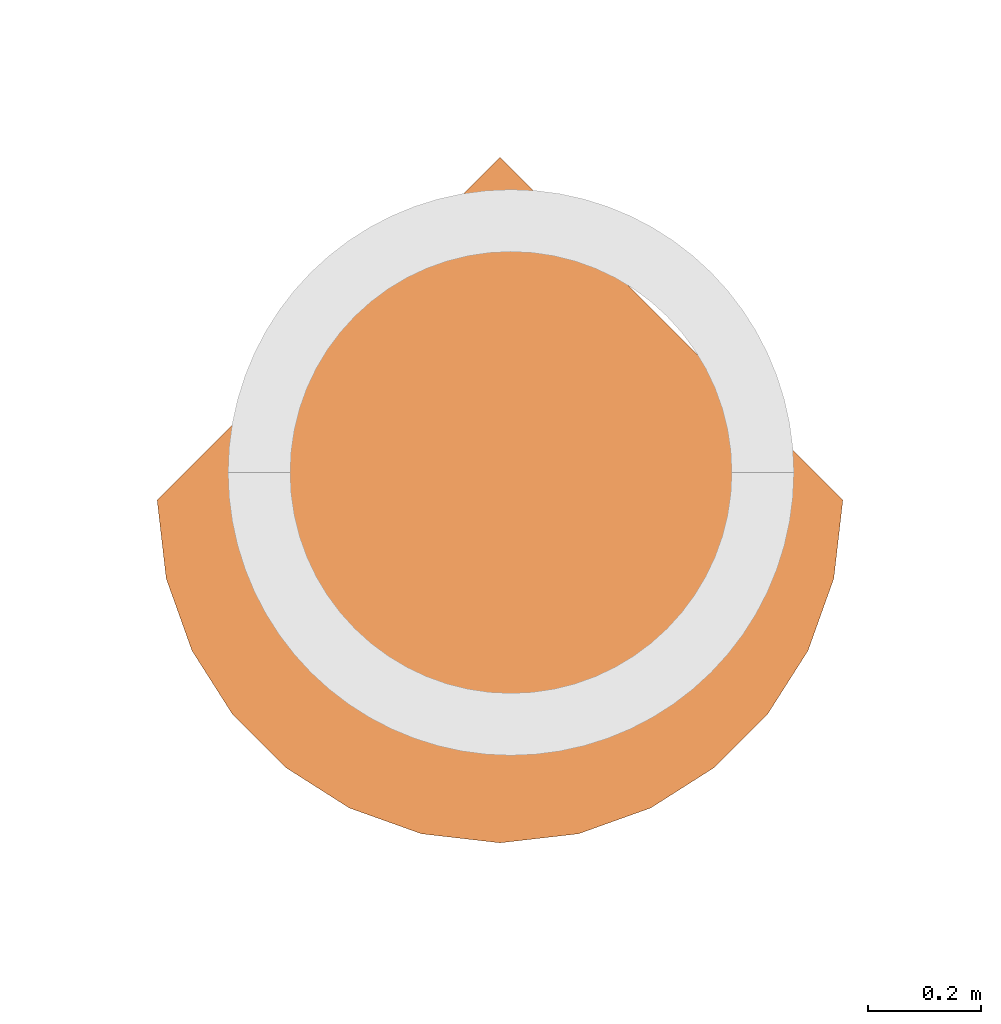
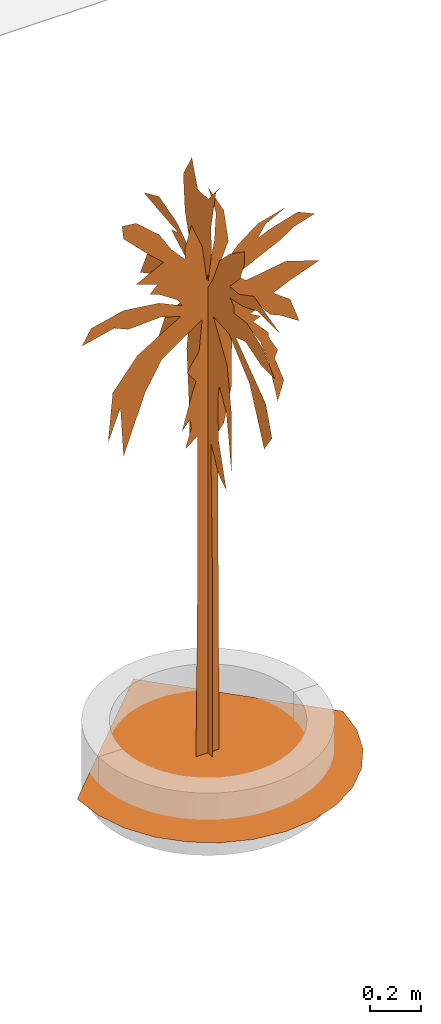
# One storey, part 4 of 4: 1 proxy.
"""IFC2X3 building model written with IfcOpenShell, lengths in millimetres."""

import ifcopenshell
import ifcopenshell.guid

model = None  # the IFC model being written
_history = None  # IfcOwnerHistory: only IFC2X3 demands one
_inside = {}  # id of a spatial element -> (the spatial element, [elements in it])
_under = {}  # id of a project, library or spatial element -> (it, [spatial elements below it])
_declared = {}  # id of a project -> (the project, [libraries it declares])
_typed = {}  # id of a type object -> (the type object, [elements of that type])
_made_of = {}  # id of a material, layer set ... -> (it, [elements and type objects made of it])


def new_model(schema):
    """Start an empty IFC model of exactly this schema.

    Asked for "IFC4X3", IfcOpenShell would pick the latest addendum, in which some entities
    have other attributes; the version numbers below select the first issue.
    IFC2X3 requires an IfcOwnerHistory on every rooted entity: one is made here for all.
    """
    global model, _history
    if schema == "IFC4X3":
        model = ifcopenshell.file(schema_version=(4, 3, 0, 0))
    else:
        model = ifcopenshell.file(schema=schema)
    _inside.clear()
    _under.clear()
    _declared.clear()
    _typed.clear()
    _made_of.clear()
    _history = None
    if model.schema == "IFC2X3":
        org = make("IfcOrganization", Name="unknown")
        user = make(
            "IfcPersonAndOrganization",
            ThePerson=make("IfcPerson", FamilyName="unknown"),
            TheOrganization=org,
        )
        app = make(
            "IfcApplication",
            ApplicationDeveloper=org,
            Version="unknown",
            ApplicationFullName="unknown",
            ApplicationIdentifier="unknown",
        )
        _history = make(
            "IfcOwnerHistory",
            OwningUser=user,
            OwningApplication=app,
            ChangeAction="ADDED",
            CreationDate=0,
        )
    return model


def make(cls, **values):
    """One entity of the class cls with the attributes given. An attribute that is None is left unset."""
    return model.create_entity(
        cls, **{name: value for name, value in values.items() if value is not None}
    )


def entity(cls, *values):
    """Any entity or typed value of the class cls, its attributes in the order of the schema. None: left unset."""
    e = model.create_entity(cls)
    for i, value in enumerate(values):
        if value is not None:
            e[i] = value
    return e


def rooted(cls, **values):
    """An entity with a GlobalId (a new one), such as an element, a storey or a relation."""
    return make(cls, GlobalId=ifcopenshell.guid.new(), OwnerHistory=_history, **values)


def si_unit(unit_type, name, prefix=None):
    """IfcSIUnit, for example si_unit("LENGTHUNIT", "METRE", prefix="MILLI")."""
    return make("IfcSIUnit", UnitType=unit_type, Prefix=prefix, Name=name)


def converted_unit(unit_type, name, factor, base, dimensions=None, offset=None):
    """IfcConversionBasedUnit, such as the inch: factor (a typed value) times the base unit."""
    return make(
        "IfcConversionBasedUnit"
        if offset is None
        else "IfcConversionBasedUnitWithOffset",
        ConversionOffset=offset,
        Dimensions=None
        if dimensions is None
        else entity("IfcDimensionalExponents", *dimensions),
        UnitType=unit_type,
        Name=name,
        ConversionFactor=make(
            "IfcMeasureWithUnit", ValueComponent=factor, UnitComponent=base
        ),
    )


def derived_unit(unit_type, elements):
    """IfcDerivedUnit: a product of units, each with its exponent."""
    return make(
        "IfcDerivedUnit",
        Elements=[
            make("IfcDerivedUnitElement", Unit=unit, Exponent=power)
            for unit, power in elements
        ],
        UnitType=unit_type,
    )


def assignment(units):
    """IfcUnitAssignment: the units of a project."""
    return None if units is None else make("IfcUnitAssignment", Units=units)


def point(xyz):
    """IfcCartesianPoint."""
    return None if xyz is None else make("IfcCartesianPoint", Coordinates=xyz)


def direction(xyz):
    """IfcDirection."""
    return None if xyz is None else make("IfcDirection", DirectionRatios=xyz)


def frame(location, z_axis=None, x_axis=None):
    """IfcAxis2Placement3D, a coordinate frame: its origin and axes. An axis left out is left unset."""
    return make(
        "IfcAxis2Placement3D",
        Location=point(location),
        Axis=direction(z_axis),
        RefDirection=direction(x_axis),
    )


def origin():
    """The frame at (0, 0, 0) with its axes left unset."""
    return frame((0.0, 0.0, 0.0))


def place(relative_to, where):
    """IfcLocalPlacement: puts the frame where relative to a parent placement (None: the world)."""
    return make(
        "IfcLocalPlacement", PlacementRelTo=relative_to, RelativePlacement=where
    )


def context(
    kind, dimensions, precision=None, world=None, true_north=None, identifier=None
):
    """IfcGeometricRepresentationContext, for example the 3D "Model" context."""
    return make(
        "IfcGeometricRepresentationContext",
        ContextIdentifier=identifier,
        ContextType=kind,
        CoordinateSpaceDimension=dimensions,
        Precision=precision,
        WorldCoordinateSystem=world,
        TrueNorth=true_north,
    )


def subcontext(parent, identifier, kind, view, scale=None):
    """IfcGeometricRepresentationSubContext, for example "Body" below "Model"."""
    return make(
        "IfcGeometricRepresentationSubContext",
        ContextIdentifier=identifier,
        ContextType=kind,
        ParentContext=parent,
        TargetScale=scale,
        TargetView=view,
    )


def project(units=None, contexts=None):
    """IfcProject with its units and contexts."""
    return rooted(
        "IfcProject",
        Name="project",
        RepresentationContexts=contexts,
        UnitsInContext=assignment(units),
    )


def spatial(cls, under=None, at=None, **own):
    """A site, building, storey or space (cls), placed at a placement, below another one or the project."""
    s = rooted(cls, ObjectPlacement=at, **own)
    if under is not None:
        _under.setdefault(under.id(), (under, []))[1].append(s)
    return s


def faces_of(points, faces, orient=None, outer=None):
    """IfcFace entities. A face is a list of loops; a loop is a list of indices into points, from 0.

    orient and outer hold one flag for each loop. By default every Orientation is true, the
    first loop of a face is its IfcFaceOuterBound and the others are IfcFaceBound.
    """
    made = []
    for i, loops in enumerate(faces):
        bounds = []
        for j, loop in enumerate(loops):
            is_outer = j == 0 if outer is None else outer[i][j]
            bounds.append(
                make(
                    "IfcFaceOuterBound" if is_outer else "IfcFaceBound",
                    Bound=make("IfcPolyLoop", Polygon=[points[k] for k in loop]),
                    Orientation=True if orient is None else orient[i][j],
                )
            )
        made.append(make("IfcFace", Bounds=bounds))
    return made


def face_set(faces, orient=None, outer=None):
    """The faces of one IfcConnectedFaceSet. surface_model builds it on its shared points."""
    return ("IfcConnectedFaceSet", faces, orient, outer)


def surface_model(cls, points, shells):
    """IfcFaceBasedSurfaceModel or IfcShellBasedSurfaceModel (cls): surfaces that need not close."""
    shared = [point(p) for p in points]
    made = [make(c, CfsFaces=faces_of(shared, fs, o, b)) for c, fs, o, b in shells]
    if cls == "IfcFaceBasedSurfaceModel":
        return make(cls, FbsmFaces=made)
    return make(cls, SbsmBoundary=made)


def shape(context_of_items, identifier, shape_type, items):
    """IfcShapeRepresentation: the items that make up one representation, for example the "Body"."""
    return make(
        "IfcShapeRepresentation",
        ContextOfItems=context_of_items,
        RepresentationIdentifier=identifier,
        RepresentationType=shape_type,
        Items=items,
    )


def source(mapping_origin, context_of_items, identifier, shape_type, items):
    """IfcRepresentationMap: a shape defined once, which mapped items show again and again."""
    return make(
        "IfcRepresentationMap",
        MappingOrigin=mapping_origin,
        MappedRepresentation=shape(context_of_items, identifier, shape_type, items),
    )


def transform(
    local_origin,
    x_axis=None,
    y_axis=None,
    z_axis=None,
    scale=None,
    scale2=None,
    scale3=None,
    uniform=True,
):
    """IfcCartesianTransformationOperator3D, or its non-uniform kind. x_axis, y_axis, z_axis: its Axis1, 2, 3."""
    if uniform:
        return make(
            "IfcCartesianTransformationOperator3D",
            Axis1=direction(x_axis),
            Axis2=direction(y_axis),
            LocalOrigin=point(local_origin),
            Scale=scale,
            Axis3=direction(z_axis),
        )
    return make(
        "IfcCartesianTransformationOperator3DnonUniform",
        Axis1=direction(x_axis),
        Axis2=direction(y_axis),
        LocalOrigin=point(local_origin),
        Scale=scale,
        Axis3=direction(z_axis),
        Scale2=scale2,
        Scale3=scale3,
    )


def mapped(mapping_source, mapping_target):
    """IfcMappedItem: shows the shape of a source again, moved by a transform."""
    return make(
        "IfcMappedItem", MappingSource=mapping_source, MappingTarget=mapping_target
    )


def made_of(thing, what):
    """Note that an element or type object is made of a material, layer set ...; save() writes the relation."""
    if what is not None:
        _made_of.setdefault(what.id(), (what, []))[1].append(thing)
    return thing


def type_object(cls, material=None, **own):
    """A type object (cls), such as IfcWallType, which elements share."""
    return made_of(rooted(cls, **own), material)


def type_shapes(of_type, sources):
    """Give a type object the sources (RepresentationMaps) that its elements show as mapped items."""
    of_type.RepresentationMaps = sources


def element(
    cls,
    number,
    at=None,
    inside=None,
    cuts=None,
    type_object=None,
    material=None,
    context=None,
    identifier="Body",
    shape_type=None,
    held_by="IfcProductDefinitionShape",
    body=None,
    shapes=None,
    **own,
):
    """One element of the class cls, such as IfcWall. Its Tag is "e" and its number.

    at: its placement. inside: the storey or other place that contains it. cuts: it is an
    opening in that element (IfcRelVoidsElement). A single representation is given by context,
    identifier, shape_type and body (its items); several are given by shapes. held_by: the class
    of the entity that holds the representations. save() writes the other relations.
    """
    e = rooted(cls, Tag="e%d" % number, ObjectPlacement=at, **own)
    if body is not None:
        shapes = [shape(context, identifier, shape_type, body)]
    if shapes is not None:
        e.Representation = make(held_by, Representations=shapes)
    if inside is not None:
        _inside.setdefault(inside.id(), (inside, []))[1].append(e)
    if cuts is not None:
        rooted(
            "IfcRelVoidsElement", RelatingBuildingElement=cuts, RelatedOpeningElement=e
        )
    if type_object is not None:
        _typed.setdefault(type_object.id(), (type_object, []))[1].append(e)
    return made_of(e, material)


def aggregate(whole, parts):
    """IfcRelAggregates: a whole, such as a stair, and the parts it consists of."""
    return rooted("IfcRelAggregates", RelatingObject=whole, RelatedObjects=parts)


def save(model, path):
    """Write the relations noted so far, then the file.

    IfcRelAggregates (storeys below a building ...), IfcRelContainedInSpatialStructure (elements
    in a storey), IfcRelDefinesByType, IfcRelAssociatesMaterial and IfcRelDeclares: one each for
    every whole, place, type object, material and project.
    """
    for whole, parts in _under.values():
        aggregate(whole, parts)
    for where, things in _inside.values():
        rooted(
            "IfcRelContainedInSpatialStructure",
            RelatedElements=things,
            RelatingStructure=where,
        )
    for kind, things in _typed.values():
        rooted("IfcRelDefinesByType", RelatedObjects=things, RelatingType=kind)
    for what, things in _made_of.values():
        rooted("IfcRelAssociatesMaterial", RelatedObjects=things, RelatingMaterial=what)
    for by, libraries in _declared.values():
        rooted("IfcRelDeclares", RelatingContext=by, RelatedDefinitions=libraries)
    model.write(path)


model = new_model("IFC2X3")

# Units and contexts
model_context = context("Model", 3, precision=0.01, world=origin(), true_north=direction((6.12303176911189e-17, 1.0)))
body_context = subcontext(model_context, "Body", "Model", "MODEL_VIEW")
ifc_project = project(units=[si_unit("LENGTHUNIT", "METRE", prefix="MILLI"), si_unit("AREAUNIT", "SQUARE_METRE"), si_unit("VOLUMEUNIT", "CUBIC_METRE"), converted_unit("PLANEANGLEUNIT", "DEGREE", entity("IfcRatioMeasure", 0.0174532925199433), si_unit("PLANEANGLEUNIT", "RADIAN"), dimensions=[0, 0, 0, 0, 0, 0, 0]), si_unit("MASSUNIT", "GRAM", prefix="KILO"), derived_unit("MASSDENSITYUNIT", [(si_unit("MASSUNIT", "GRAM", prefix="KILO"), 1), (si_unit("LENGTHUNIT", "METRE"), -3)]), si_unit("TIMEUNIT", "SECOND"), si_unit("FREQUENCYUNIT", "HERTZ"), si_unit("THERMODYNAMICTEMPERATUREUNIT", "DEGREE_CELSIUS"), derived_unit("THERMALTRANSMITTANCEUNIT", [(si_unit("MASSUNIT", "GRAM", prefix="KILO"), 1), (si_unit("THERMODYNAMICTEMPERATUREUNIT", "KELVIN"), -1), (si_unit("TIMEUNIT", "SECOND"), -3)]), derived_unit("VOLUMETRICFLOWRATEUNIT", [(si_unit("LENGTHUNIT", "METRE"), 3), (si_unit("TIMEUNIT", "SECOND"), -1)]), si_unit("ELECTRICCURRENTUNIT", "AMPERE"), si_unit("ELECTRICVOLTAGEUNIT", "VOLT"), si_unit("POWERUNIT", "WATT"), si_unit("FORCEUNIT", "NEWTON", prefix="KILO"), si_unit("ILLUMINANCEUNIT", "LUX"), si_unit("LUMINOUSFLUXUNIT", "LUMEN"), si_unit("LUMINOUSINTENSITYUNIT", "CANDELA"), derived_unit("USERDEFINED", [(si_unit("MASSUNIT", "GRAM", prefix="KILO"), -1), (si_unit("LENGTHUNIT", "METRE"), -2), (si_unit("TIMEUNIT", "SECOND"), 3), (si_unit("LUMINOUSFLUXUNIT", "LUMEN"), 1)]), derived_unit("LINEARVELOCITYUNIT", [(si_unit("LENGTHUNIT", "METRE"), 1), (si_unit("TIMEUNIT", "SECOND"), -1)]), si_unit("PRESSUREUNIT", "PASCAL"), derived_unit("USERDEFINED", [(si_unit("LENGTHUNIT", "METRE"), -2), (si_unit("MASSUNIT", "GRAM", prefix="KILO"), 1), (si_unit("TIMEUNIT", "SECOND"), -2)])], contexts=[model_context])

# Site, building, storey, space
site_placement = place(None, origin())
site = spatial("IfcSite", under=ifc_project, at=site_placement, Name="Surface", CompositionType="ELEMENT")
building_placement = place(site_placement, origin())
building = spatial("IfcBuilding", under=site, at=building_placement, CompositionType="ELEMENT")
storey_placement = place(building_placement, origin())
storey = spatial("IfcBuildingStorey", under=building, at=storey_placement, Name="N.G.L", CompositionType="ELEMENT", Elevation=0.0)
space_placement = place(storey_placement, origin())
space = spatial("IfcSpace", under=storey, at=space_placement, Name="1", CompositionType="ELEMENT", InteriorOrExteriorSpace="INTERNAL")

# Proxy
building_element_proxy_type = type_object("IfcBuildingElementProxyType", Name="Australian Tree Fern - 1.8 Meters", PredefinedType="NOTDEFINED")
shared_shape = source(origin(), body_context, "Body", "SurfaceModel", [
    surface_model("IfcFaceBasedSurfaceModel", [(226.266566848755, -0.00688125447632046, 2470.31607513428), (352.807789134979, -0.00689307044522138, 2505.46538314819), (261.416801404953, -0.00688027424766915, 2456.2602470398), (36.4542996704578, -0.00689433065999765, 2589.82941970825), (1.3038739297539, -0.00691667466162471, 2723.39859237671), (71.6047227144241, -0.0068958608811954, 2589.82941970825), (-399.410504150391, -0.00673447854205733, 1802.46091003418), (-455.651257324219, -0.00670562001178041, 1654.8263168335), (-434.561701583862, -0.00674803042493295, 1886.81549949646), (-286.929052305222, -0.00674568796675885, 1837.6102180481), (-385.350788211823, -0.00669235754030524, 1563.43451156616), (-83.0570487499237, -0.00671813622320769, 1633.73298225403), (-118.207746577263, -0.0067090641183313, 1591.55576019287), (-76.0270908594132, -0.0067385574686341, 1746.2182674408), (345.777949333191, -0.00674442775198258, 1675.91965141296), (317.657572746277, -0.00672685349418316, 1584.52770080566), (275.477462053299, -0.00676147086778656, 1788.39548950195), (303.597820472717, -0.00676395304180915, 1795.43285064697), (-47.9066279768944, -0.0067033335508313, 1542.34117698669), (-104.147095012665, -0.00669333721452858, 1500.16380958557), (-76.0271816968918, -0.00671090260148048, 1591.55576019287), (373.898325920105, -0.0068135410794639, 2055.54328193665), (416.078418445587, -0.00679401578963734, 1936.03008270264), (331.718233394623, -0.00680038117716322, 1992.27272529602), (352.807789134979, -0.00684656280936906, 2245.35509719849), (507.470296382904, -0.00684451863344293, 2196.14051399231), (373.898325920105, -0.00682988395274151, 2146.93523254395), (-104.147095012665, -0.006866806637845, 2470.31607513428), (-76.0270908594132, -0.00688564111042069, 2568.73623046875), (-26.8164908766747, -0.00686642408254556, 2449.22288589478), (409.048542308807, -0.00688798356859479, 2463.288306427), (486.37979593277, -0.00688508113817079, 2428.13885307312), (394.988826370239, -0.00687605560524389, 2400.01760444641), (-427.530880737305, -0.00680364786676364, 2196.14051399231), (-575.162603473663, -0.0067909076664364, 2160.99120597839), (-532.982510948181, -0.00680532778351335, 2231.28982200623), (-385.350788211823, -0.00681806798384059, 2266.44843177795), (-230.689243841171, -0.0068373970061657, 2336.74704780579), (-329.110071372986, -0.00683937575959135, 2371.8963558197), (-202.568867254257, -0.00685622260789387, 2435.16691246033), (191.116332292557, -0.00680429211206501, 2048.5153678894), (240.326282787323, -0.00680141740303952, 2020.39397392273), (205.176066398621, -0.00679736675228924, 2006.32869873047), (289.537177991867, -0.0068764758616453, 2428.13885307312), (331.718233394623, -0.00686575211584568, 2357.83093528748), (-223.658441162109, -0.0068289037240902, 2287.53246459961), (-265.839478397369, -0.00682957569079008, 2301.59773979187), (-104.147095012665, -0.00685675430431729, 2414.07357788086), (-5.7262657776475, -0.00683717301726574, 2280.5044052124), (-385.350788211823, -0.00687965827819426, 2610.92260894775), (-392.380664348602, -0.0068906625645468, 2674.19345626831), (-329.110071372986, -0.00689217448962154, 2667.15609512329), (226.266566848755, -0.00686868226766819, 2400.01760444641), (134.875606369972, -0.00686468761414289, 2400.01760444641), (-364.260287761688, -0.00680138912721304, 2168.01912002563), (-223.658441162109, -0.00682136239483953, 2245.35509719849), (-216.628583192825, -0.00680909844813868, 2175.05648117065), (-118.207746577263, -0.00681717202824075, 2196.14051399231), (-125.237604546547, -0.00680806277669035, 2146.93523254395), (127.845748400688, -0.00683923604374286, 2259.41107063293), (29.42416010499, -0.00683870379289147, 2280.5044052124), (-272.869336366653, -0.00686446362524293, 2498.43761444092), (-223.658441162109, -0.00688044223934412, 2575.76399917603), (-167.417706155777, -0.00686655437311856, 2484.37219390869), (296.567035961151, -0.00682021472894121, 2111.78592453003), (282.507320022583, -0.00680200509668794, 2013.35661277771), (226.266566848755, -0.00681211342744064, 2083.66453056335), (226.266566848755, -0.00683725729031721, 2224.26176261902), (170.025831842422, -0.00683354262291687, 2217.23384857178), (29.42416010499, -0.00687138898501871, 2463.288306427), (92.695050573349, -0.00686913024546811, 2435.16691246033), (240.326282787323, -0.00677878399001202, 1893.85271530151), (317.657572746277, -0.00677085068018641, 1830.58215866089), (275.477462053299, -0.0067828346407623, 1907.90883407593), (-139.298256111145, -0.0068225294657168, 2231.28982200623), (-322.080195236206, -0.00677808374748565, 2027.42203330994), (-209.598725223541, -0.00677295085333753, 1971.17939071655), (-26.8164908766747, -0.00680356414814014, 2097.72064933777), (43.484350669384, -0.00670481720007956, 1528.28520355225), (50.5143948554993, -0.00643234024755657, 0.000343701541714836), (-19.7864444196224, -0.00642712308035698, 0.000346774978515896), (-54.9368583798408, -0.00643024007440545, 0.000348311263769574), (-47.906718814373, -0.00659145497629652, 916.668684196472), (177.055689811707, -0.00679487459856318, 1999.30063934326), (275.477462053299, -0.00678660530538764, 1929.00202331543), (113.78509683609, -0.00679714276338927, 2027.42203330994), (226.266566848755, -0.0068083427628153, 2062.57134132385), (-40.8766746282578, -0.0067765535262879, 1950.08605613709), (106.755229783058, -0.00677169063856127, 1886.81549949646), (-97.1172279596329, -0.00675900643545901, 1865.7314666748), (-54.9367675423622, -0.00675079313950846, 1809.48882408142), (106.755229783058, -0.00674403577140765, 1732.16229400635), (71.6047227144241, -0.00671233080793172, 1563.43451156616), (0.19530833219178, -1.08199359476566, 2670.77738571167), (0.195309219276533, -109.898960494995, 2799.99711456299), (0.195308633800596, -62.2918191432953, 2738.78922271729), (0.195308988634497, -184.711145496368, 1745.82628555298), (0.19530815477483, -184.711145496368, 1453.38526954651), (0.195308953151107, -164.30850276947, 1603.00767745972), (0.195309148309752, 400.182150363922, 1650.61698074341), (0.19530840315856, 481.794574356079, 1521.39710655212), (0.195308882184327, 386.579746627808, 1779.83685493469), (0.19530811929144, -361.539378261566, 2419.1322807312), (0.195308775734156, -565.572382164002, 2364.72833404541), (0.195308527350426, -388.744149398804, 2364.72833404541), (0.195308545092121, -143.904924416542, 1725.42360649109), (0.195308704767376, 80.5310038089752, 1534.9958404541), (0.195309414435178, 148.541723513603, 1392.16793060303), (0.195308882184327, 148.541723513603, 1562.2024646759), (0.195308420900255, -21.4852188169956, 2541.55736618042), (0.195308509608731, 386.579746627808, 2378.32692260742), (0.195309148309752, 508.999345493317, 2391.93495826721), (0.195308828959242, 386.579746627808, 2446.33905029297), (0.195309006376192, 291.364918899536, 1786.63149833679), (0.195308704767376, 406.983334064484, 2058.67928237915), (0.195308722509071, 536.204116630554, 1990.66730003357), (0.19530829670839, 468.193151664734, 2140.28985328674), (0.195309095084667, -82.695025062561, 1555.39851951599), (0.19530811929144, -143.904924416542, 1351.36271781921), (0.195308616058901, -82.695025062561, 1392.16793060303), (0.19530836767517, -21.4852188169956, 1507.7892162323), (0.195308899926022, -436.351563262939, 2208.30183563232), (0.195309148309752, -524.765207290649, 2119.88717422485), (0.19530829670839, -422.749195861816, 2119.88717422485), (0.195308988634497, 196.149146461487, 2670.77738571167), (0.195308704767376, 128.138136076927, 2793.19316940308), (0.195308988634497, 114.536686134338, 2752.3878112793), (0.195308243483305, 155.342916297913, 2269.50972747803), (0.195308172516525, 291.364918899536, 2344.32565498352), (0.195309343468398, 236.956303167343, 2364.72833404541), (0.195309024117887, 393.380930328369, 2140.28985328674), (0.195308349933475, -171.10875992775, 2507.54694213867), (0.19530819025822, -286.727175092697, 2589.16666946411), (0.195308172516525, -286.727175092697, 2527.9494758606), (0.195308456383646, -252.72214679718, 2439.54411621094), (0.195308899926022, -504.362564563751, 1820.64221305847), (0.195309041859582, -443.152746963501, 1732.227551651), (0.195308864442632, -327.534331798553, 1977.06871147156), (0.195308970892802, -456.755150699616, 1956.66603240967), (0.195308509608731, -218.717118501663, 2133.49520988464), (0.195308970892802, -164.30850276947, 2119.88717422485), (0.195308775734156, 325.369929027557, 1929.45940818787), (0.19530815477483, 196.149146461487, 1983.86335487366), (0.195308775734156, 189.34794459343, 2065.48322753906), (0.195308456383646, 141.740521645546, 2045.08069381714), (0.195308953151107, 80.5310038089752, 2663.97344055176), (0.195308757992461, 243.757486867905, 2405.53354682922), (0.195308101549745, 128.138136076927, 2323.92297592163), (0.195309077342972, -293.528376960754, 2160.69253234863), (0.195308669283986, -307.130744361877, 2255.91113891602), (0.195308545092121, -205.114732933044, 2242.31240501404), (0.195308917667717, 182.54768743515, 2500.75229873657), (0.195308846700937, -273.125734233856, 2317.11903076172), (0.195309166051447, -245.920963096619, 2357.9243888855), (0.19530843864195, -171.10875992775, 2296.71635169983), (0.19530815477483, -171.10875992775, 2351.12960014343), (0.195308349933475, -89.4961270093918, 2425.93622589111), (0.195309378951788, -41.8886132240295, 2310.31508560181), (0.195309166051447, -35.0875112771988, 841.284332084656), (0.195308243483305, -35.0875112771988, 0.00016971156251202), (0.195308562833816, 32.9233946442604, 0.000181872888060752), (0.195308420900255, 60.1277933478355, 0.00018673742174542), (0.195308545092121, 60.1277933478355, 671.257355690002), (0.195309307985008, 53.3267867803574, 1575.80105323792), (0.195308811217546, 332.17114906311, 2045.08069381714), (0.195308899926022, 366.176159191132, 2255.91113891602), (0.195308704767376, 236.956303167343, 2228.70451469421), (0.19530819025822, 250.557744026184, 2051.87533721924), (0.195308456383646, -89.4961270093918, 1820.64221305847), (0.195309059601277, -150.706117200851, 1956.66603240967), (0.195308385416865, -28.2863184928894, 2425.93622589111), (0.195308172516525, 5.71907826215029, 2235.50845985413), (0.195308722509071, -75.8939231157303, 1752.63023071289), (0.195308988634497, 168.945301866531, 1847.84883728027), (0.195309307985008, -41.8886132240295, 2126.69126472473), (0.195308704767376, -205.114732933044, 2276.31367263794), (604.317546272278, -18.0527021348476, 0.000146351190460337), (-1.46145921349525, 587.725935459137, 0.000111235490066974), (-607.240332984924, -18.0527021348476, 0.00019930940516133), (588.302499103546, -156.856777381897, 0.000122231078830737), (-591.225249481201, -156.856777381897, 0.000173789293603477), (542.692419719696, -284.32664937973, 0.000101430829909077), (-545.615170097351, -284.32664937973, 0.00014900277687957), (-474.062197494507, -396.810008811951, 0.000125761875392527), (471.13941078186, -396.810008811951, 8.44453919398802e-05), (377.295647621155, -490.653771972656, 7.17668240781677e-05), (-380.21839799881, -490.653771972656, 0.000104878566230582), (-267.735074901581, -562.206780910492, 8.7167364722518e-05), (-140.266120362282, -607.816860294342, 7.34397281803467e-05), (-1.46134722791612, -623.831907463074, 6.45087642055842e-05), (137.343333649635, -607.816860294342, 6.13050974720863e-05), (264.812270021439, -562.206780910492, 6.38889353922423e-05)], [face_set([[[0, 1, 2]], [[3, 4, 5]], [[6, 7, 8]], [[9, 10, 6]], [[11, 12, 13]], [[14, 15, 16]], [[17, 14, 16]], [[18, 19, 20]], [[21, 22, 23]], [[24, 25, 26]], [[27, 28, 29]], [[30, 31, 32]], [[33, 34, 35]], [[33, 35, 36]], [[37, 38, 39]], [[40, 41, 42]], [[43, 30, 32]], [[43, 32, 44]], [[45, 46, 37]], [[47, 27, 29]], [[47, 29, 48]], [[49, 50, 51]], [[0, 2, 52]], [[53, 0, 52]], [[54, 33, 36]], [[54, 36, 55]], [[56, 54, 55]], [[56, 55, 57]], [[58, 56, 57]], [[43, 44, 59]], [[52, 43, 59]], [[53, 52, 59]], [[60, 53, 59]], [[61, 49, 51]], [[61, 51, 62]], [[61, 62, 63]], [[39, 61, 63]], [[39, 63, 47]], [[64, 21, 23]], [[64, 23, 65]], [[64, 65, 66]], [[67, 24, 26]], [[67, 26, 64]], [[67, 64, 66]], [[68, 67, 66]], [[69, 3, 5]], [[69, 5, 70]], [[48, 69, 70]], [[48, 70, 60]], [[37, 39, 47]], [[17, 16, 71]], [[72, 17, 71]], [[73, 72, 71]], [[37, 47, 48]], [[45, 37, 48]], [[74, 45, 48]], [[57, 74, 48]], [[9, 6, 8]], [[9, 8, 75]], [[76, 9, 75]], [[76, 75, 58]], [[77, 76, 58]], [[78, 79, 80]], [[78, 80, 81]], [[78, 81, 82]], [[78, 82, 18]], [[73, 71, 83]], [[84, 73, 83]], [[42, 84, 83]], [[40, 42, 83]], [[40, 83, 85]], [[77, 58, 57]], [[77, 57, 48]], [[77, 48, 60]], [[77, 60, 59]], [[77, 59, 68]], [[77, 68, 66]], [[77, 66, 86]], [[77, 86, 40]], [[77, 40, 85]], [[87, 77, 85]], [[87, 85, 88]], [[89, 87, 88]], [[90, 89, 88]], [[90, 88, 91]], [[13, 90, 91]], [[13, 91, 92]], [[11, 13, 92]], [[20, 11, 92]], [[18, 20, 92]], [[78, 18, 92]], [[93, 94, 95]], [[96, 97, 98]], [[99, 100, 101]], [[102, 103, 104]], [[96, 98, 105]], [[106, 107, 108]], [[93, 95, 109]], [[110, 111, 112]], [[113, 99, 101]], [[114, 115, 116]], [[117, 118, 119]], [[117, 119, 120]], [[121, 122, 123]], [[124, 125, 126]], [[127, 128, 129]], [[114, 116, 130]], [[131, 132, 133]], [[131, 133, 134]], [[135, 136, 137]], [[138, 135, 137]], [[139, 138, 137]], [[139, 137, 140]], [[113, 101, 141]], [[142, 113, 141]], [[142, 141, 143]], [[144, 142, 143]], [[124, 126, 145]], [[110, 112, 146]], [[129, 110, 146]], [[129, 146, 147]], [[127, 129, 147]], [[121, 123, 148]], [[149, 121, 148]], [[150, 149, 148]], [[150, 148, 139]], [[151, 124, 145]], [[102, 104, 152]], [[153, 102, 152]], [[153, 152, 154]], [[155, 153, 154]], [[131, 134, 155]], [[156, 131, 155]], [[157, 156, 155]], [[157, 155, 154]], [[158, 159, 160]], [[158, 160, 161]], [[158, 161, 162]], [[158, 162, 163]], [[120, 158, 163]], [[164, 114, 130]], [[130, 165, 166]], [[164, 130, 166]], [[167, 164, 166]], [[143, 167, 166]], [[96, 105, 168]], [[169, 96, 168]], [[145, 93, 109]], [[151, 145, 109]], [[151, 109, 170]], [[147, 151, 170]], [[147, 170, 171]], [[127, 147, 171]], [[150, 139, 140]], [[117, 120, 163]], [[172, 117, 163]], [[143, 166, 127]], [[143, 127, 171]], [[144, 143, 171]], [[163, 106, 108]], [[163, 108, 173]], [[172, 163, 173]], [[168, 172, 173]], [[168, 173, 144]], [[169, 168, 144]], [[174, 169, 144]], [[174, 144, 171]], [[150, 140, 174]], [[150, 174, 171]], [[150, 171, 157]], [[150, 157, 154]], [[150, 154, 175]], [[176, 177, 178]], [[179, 176, 178]], [[179, 178, 180]], [[181, 179, 180]], [[181, 180, 182]], [[181, 182, 183]], [[184, 181, 183]], [[185, 184, 183]], [[185, 183, 186]], [[185, 186, 187]], [[185, 187, 188]], [[185, 188, 189]], [[185, 189, 190]], [[185, 190, 191]]])]),
])
type_shapes(building_element_proxy_type, [shared_shape])
proxy_placement = place(space_placement, frame((-982.071841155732, 2860.84008915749, 0.0)))
element("IfcBuildingElementProxy", 1, at=proxy_placement, inside=space, type_object=building_element_proxy_type, Name="M_RPC Tree - Tropical:Australian Tree Fern - 1.8 Meters", ObjectType="Australian Tree Fern - 1.8 Meters", context=body_context, shape_type="MappedRepresentation", body=[
    mapped(shared_shape, transform((0.0, 0.0, 0.0), scale=1.0)),
])

save(model, "model.ifc")
